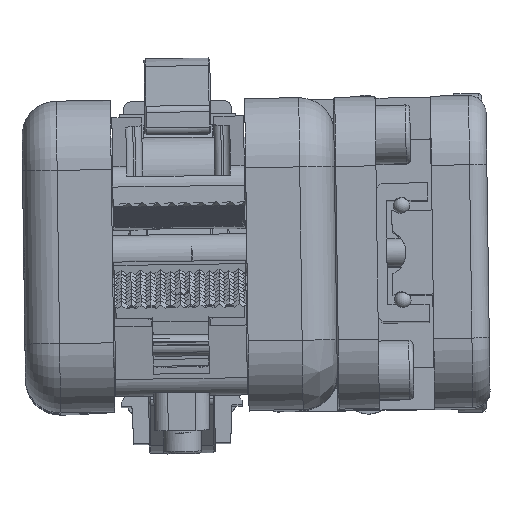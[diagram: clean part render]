
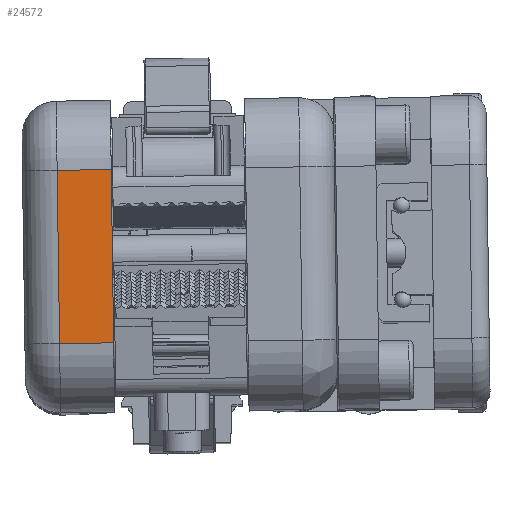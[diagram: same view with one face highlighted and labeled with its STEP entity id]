
A CAD part, top view. The second image highlights one B-rep face of the part: STEP entity #24572.
In plain terms, the highlighted planar face has unit normal (0, 0, 1).
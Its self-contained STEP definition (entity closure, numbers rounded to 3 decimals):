
#1974=LINE('',#67453,#4901);
#1975=LINE('',#67456,#4902);
#1976=LINE('',#67458,#4903);
#1977=LINE('',#67460,#4904);
#4901=VECTOR('',#52745,1.);
#4902=VECTOR('',#52746,1.);
#4903=VECTOR('',#52747,1.);
#4904=VECTOR('',#52748,1.);
#21442=PLANE('',#47057);
#22957=FACE_OUTER_BOUND('',#28148,.T.);
#24572=ADVANCED_FACE('',(#22957),#21442,.F.);
#28148=EDGE_LOOP('',(#33079,#33080,#33081,#33082));
#33079=ORIENTED_EDGE('',*,*,#42535,.T.);
#33080=ORIENTED_EDGE('',*,*,#42536,.T.);
#33081=ORIENTED_EDGE('',*,*,#42537,.T.);
#33082=ORIENTED_EDGE('',*,*,#42538,.T.);
#39158=VERTEX_POINT('',#67454);
#39159=VERTEX_POINT('',#67455);
#39160=VERTEX_POINT('',#67457);
#39161=VERTEX_POINT('',#67459);
#42535=EDGE_CURVE('',#39158,#39159,#1974,.T.);
#42536=EDGE_CURVE('',#39159,#39160,#1975,.T.);
#42537=EDGE_CURVE('',#39160,#39161,#1976,.T.);
#42538=EDGE_CURVE('',#39161,#39158,#1977,.T.);
#47057=AXIS2_PLACEMENT_3D('',#67461,#52749,#52750);
#52745=DIRECTION('',(0.014,-1.,0.));
#52746=DIRECTION('',(1.,0.014,0.));
#52747=DIRECTION('',(-0.014,1.,0.));
#52748=DIRECTION('',(-1.,-0.014,0.));
#52749=DIRECTION('',(0.,0.,-1.));
#52750=DIRECTION('',(-0.014,1.,0.));
#67453=CARTESIAN_POINT('',(-17.182,-22.744,282.));
#67454=CARTESIAN_POINT('',(-17.674,12.253,282.));
#67455=CARTESIAN_POINT('',(-17.322,-12.745,282.));
#67456=CARTESIAN_POINT('',(-22.322,-12.815,282.));
#67457=CARTESIAN_POINT('',(-9.523,-12.635,282.));
#67458=CARTESIAN_POINT('',(-10.016,22.361,282.));
#67459=CARTESIAN_POINT('',(-9.875,12.362,282.));
#67460=CARTESIAN_POINT('',(-22.674,12.182,282.));
#67461=CARTESIAN_POINT('',(-22.814,22.181,282.));
